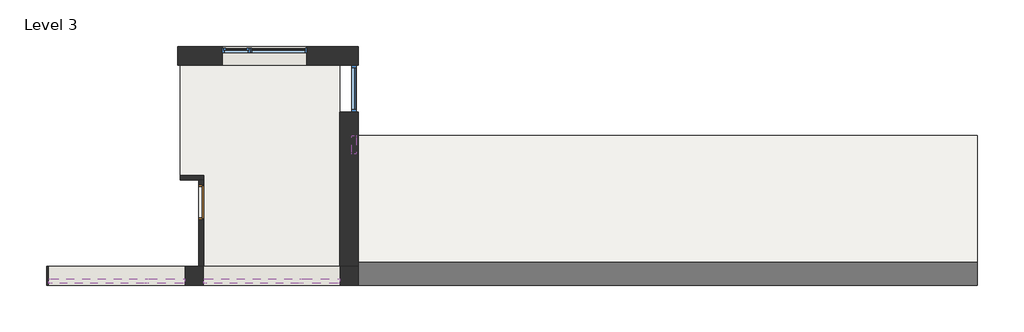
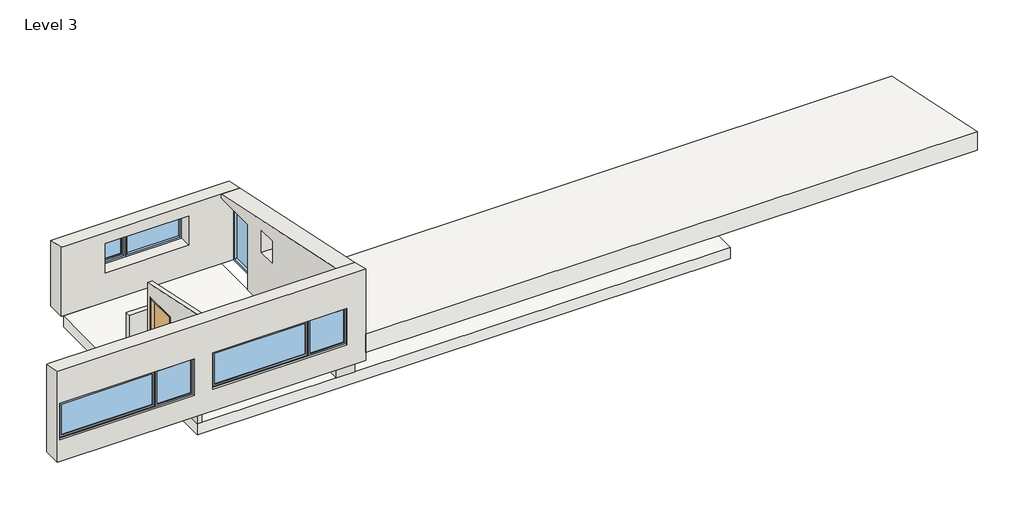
# One storey: 5 walls, 5 windows, 1 door, 1 roof, 1 slab.
"""IFC4 building model written with IfcOpenShell, lengths in millimetres."""

from ifc_helpers import new_model, si_unit, frame, origin, place, context, project, spatial, polyline, outline, extrude, faceted_brep, transform, mapped, element, save
from components import int_single_flush_900x2200_mm_58b118df, fixed_1200x1800_mm_f7b21099, fixed_480x600_mm_b97dc9c7, window_assembly_individual_2160x800_mm_7af03b1a, window_assembly_individual_3480x1000_mm_c786019a

model = new_model("IFC4")

# Units and contexts
model_context = context("Model", 3, world=origin())
ifc_project = project(units=[si_unit("LENGTHUNIT", "METRE", prefix="MILLI")], contexts=[model_context])

# Site, building, storey
site = spatial("IfcSite", under=ifc_project)
building = spatial("IfcBuilding", under=site)
storey = spatial("IfcBuildingStorey", under=building, Name="Level 3", Elevation=2600.0)

# Door
placement = place(None, origin())
int_single_flush_900x2200_mm_shape = int_single_flush_900x2200_mm_58b118df(model_context)
element("IfcDoor", 1, ObjectType="Int. Single-Flush : 900x2200 mm", at=placement, inside=storey, context=model_context, shape_type="MappedRepresentation", body=[
    mapped(int_single_flush_900x2200_mm_shape, transform((8340.0, 5970.0, 2600.0), x_axis=(0.0, -1.0, 0.0), y_axis=(1.0, 0.0, 0.0), z_axis=(0.0, 0.0, 1.0))),
])

# Roof
element("IfcRoof", 2, ObjectType="Generic - 500mm", at=placement, inside=storey, context=model_context, shape_type="SweptSolid", body=[
    extrude(outline(polyline([(3840.0, 3927.3874942), (7680.0, 3111.1702974), (7680.0, 2600.0), (3840.0, 3416.2171968), (3840.0, 3927.3874942)])), frame((12360.0, 0.0, 0.0), z_axis=(1.0, 0.0, 0.0), x_axis=(0.0, 1.0, 0.0)), (0.0, 0.0, 1.0), 15840.0),
])

# Slab
element("IfcSlab", 3, ObjectType="Generic - 300mm", at=placement, inside=storey, context=model_context, shape_type="SweptSolid", body=[
    extrude(outline(polyline([(11880.0, 7200.0), (22080.0, 7200.0), (22080.0, 4320.0), (8280.0, 4320.0), (8280.0, 6540.0), (7800.0, 6540.0), (7800.0, 9480.0), (11880.0, 9480.0), (11880.0, 7200.0)])), frame((0.0, 0.0, 2300.0), z_axis=(0.0, 0.0, 1.0), x_axis=(1.0, 0.0, 0.0)), (0.0, 0.0, 1.0), 300.0),
])

# Walls
element("IfcWall", 4, ObjectType="Generic - 120mm (Interior)", at=placement, inside=storey, context=model_context, shape_type="Brep", body=[
    faceted_brep([(7800.0, 6540.0, 2600.0), (8280.0, 6540.0, 2600.0), (8400.0, 6540.0, 2600.0), (8400.0, 6540.0, 4400.0), (7800.0, 6540.0, 4400.0), (7800.0, 6660.0, 2600.0), (7800.0, 6660.0, 4400.0), (8400.0, 6660.0, 4400.0), (8400.0, 6660.0, 2600.0)], [[[0, 1, 2, 3, 4]], [[5, 6, 7, 8]], [[2, 1, 0, 5, 8]], [[4, 3, 7, 6]], [[0, 4, 6, 5]], [[3, 2, 8, 7]]]),
])
element("IfcWall", 5, ObjectType="Generic - 120mm (Interior)", at=placement, inside=storey, context=model_context, shape_type="Brep", body=[
    faceted_brep([(8280.0, 6540.0, 5126.9434409), (8280.0, 6540.0, 2600.0), (8280.0, 6420.0, 2600.0), (8280.0, 6420.0, 4800.0), (8280.0, 5520.0, 4800.0), (8280.0, 5520.0, 2600.0), (8280.0, 4320.0, 2600.0), (8280.0, 4320.0, 5598.8190078), (8400.0, 6540.0, 2600.0), (8400.0, 6540.0, 4400.0), (8400.0, 6540.0, 5126.9434409), (8400.0, 4320.0, 5598.8190078), (8400.0, 4320.0, 4800.0), (8400.0, 4320.0, 3800.0), (8400.0, 4320.0, 2600.0), (8400.0, 5520.0, 2600.0), (8400.0, 5520.0, 4800.0), (8400.0, 6420.0, 4800.0), (8400.0, 6420.0, 2600.0)], [[[0, 1, 2, 3, 4, 5, 6, 7]], [[8, 9, 10, 11, 12, 13, 14, 15, 16, 17, 18]], [[1, 8, 18, 2]], [[14, 6, 5, 15]], [[1, 0, 10, 9, 8]], [[7, 6, 14, 13, 12, 11]], [[0, 7, 11, 10]], [[4, 16, 15, 5]], [[16, 4, 3, 17]], [[17, 3, 2, 18]]]),
])
element("IfcWall", 6, ObjectType="Generic - 480mm (Exterior)", at=placement, inside=storey, context=model_context, shape_type="Brep", body=[
    faceted_brep([(7740.0, 9480.0, 2600.0), (12360.0, 9480.0, 2600.0), (12360.0, 9480.0, 4400.0), (12360.0, 9480.0, 4502.0271496), (11880.0, 9480.0, 4502.0271496), (7800.0, 9480.0, 4502.0271496), (7740.0, 9480.0, 4502.0271496), (11040.0, 9480.0, 3400.0), (8880.0, 9480.0, 3400.0), (8880.0, 9480.0, 4200.0), (11040.0, 9480.0, 4200.0), (7740.0, 9960.0, 2600.0), (7740.0, 9960.0, 4400.0), (12360.0, 9960.0, 4400.0), (12360.0, 9960.0, 2600.0), (11040.0, 9960.0, 3400.0), (11040.0, 9960.0, 4200.0), (8880.0, 9960.0, 4200.0), (8880.0, 9960.0, 3400.0)], [[[0, 1, 2, 3, 4, 5, 6], [7, 8, 9, 10]], [[11, 12, 13, 14], [15, 16, 17, 18]], [[1, 0, 11, 14]], [[0, 6, 12, 11]], [[3, 2, 1, 14, 13]], [[6, 5, 4, 3, 13, 12]], [[16, 15, 7, 10]], [[17, 16, 10, 9]], [[18, 17, 9, 8]], [[15, 18, 8, 7]]]),
])
element("IfcWall", 7, ObjectType="Generic - 480mm (Exterior)", at=placement, inside=storey, context=model_context, shape_type="Brep", body=[
    faceted_brep([(11880.0, 4320.0, 5598.8190078), (11880.0, 9480.0, 4502.0271496), (11880.0, 9480.0, 4400.0), (11880.0, 8280.0, 4400.0), (11880.0, 8280.0, 2600.0), (11880.0, 7680.0, 2600.0), (11880.0, 4320.0, 2600.0), (11880.0, 4320.0, 3800.0), (11880.0, 4320.0, 4800.0), (11880.0, 7680.0, 4000.0), (11880.0, 7680.0, 4600.0), (11880.0, 7200.0, 4600.0), (11880.0, 7200.0, 4000.0), (12360.0, 9480.0, 4502.0271496), (12360.0, 4320.0, 5598.8190078), (12360.0, 4320.0, 3200.0), (12360.0, 4320.0, 2600.0), (12360.0, 7680.0, 2600.0), (12360.0, 8280.0, 2600.0), (12360.0, 8280.0, 4400.0), (12360.0, 9480.0, 4400.0), (12360.0, 7680.0, 4000.0), (12360.0, 7200.0, 4000.0), (12360.0, 7200.0, 4600.0), (12360.0, 7680.0, 4600.0)], [[[0, 1, 2, 3, 4, 5, 6, 7, 8], [9, 10, 11, 12]], [[13, 14, 15, 16, 17, 18, 19, 20], [21, 22, 23, 24]], [[16, 6, 5, 4, 18, 17]], [[1, 13, 20, 2]], [[1, 0, 14, 13]], [[0, 8, 7, 6, 16, 15, 14]], [[19, 3, 2, 20]], [[3, 19, 18, 4]], [[10, 9, 21, 24]], [[11, 10, 24, 23]], [[12, 11, 23, 22]], [[9, 12, 22, 21]]]),
])
element("IfcWall", 8, ObjectType="Generic - 480mm (Exterior)", at=placement, inside=storey, context=model_context, shape_type="Brep", body=[
    faceted_brep([(12360.0, 4320.0, 3200.0), (4440.0, 4320.0, 3200.0), (4380.0, 4320.0, 3200.0), (4380.0, 4320.0, 5598.8190078), (4440.0, 4320.0, 5598.8190078), (8280.0, 4320.0, 5598.8190078), (8400.0, 4320.0, 5598.8190078), (11880.0, 4320.0, 5598.8190078), (12360.0, 4320.0, 5598.8190078), (7920.0, 4320.0, 3800.0), (7920.0, 4320.0, 4800.0), (4440.0, 4320.0, 4800.0), (4440.0, 4320.0, 3800.0), (11880.0, 4320.0, 3800.0), (11880.0, 4320.0, 4800.0), (8400.0, 4320.0, 4800.0), (8400.0, 4320.0, 3800.0), (12360.0, 3840.0, 3200.0), (12360.0, 3840.0, 5700.8461574), (4380.0, 3840.0, 5700.8461574), (4380.0, 3840.0, 3362.7828084), (4380.0, 3840.0, 3200.0), (7920.0, 3840.0, 3800.0), (4440.0, 3840.0, 3800.0), (4440.0, 3840.0, 4800.0), (7920.0, 3840.0, 4800.0), (11880.0, 3840.0, 3800.0), (8400.0, 3840.0, 3800.0), (8400.0, 3840.0, 4800.0), (11880.0, 3840.0, 4800.0), (4380.0, 4200.0, 3200.0)], [[[0, 1, 2, 3, 4, 5, 6, 7, 8], [9, 10, 11, 12], [13, 14, 15, 16]], [[17, 18, 19, 20, 21], [22, 23, 24, 25], [26, 27, 28, 29]], [[2, 1, 0, 17, 21, 30]], [[3, 2, 30, 21, 20, 19]], [[8, 7, 6, 5, 4, 3, 19, 18]], [[0, 8, 18, 17]], [[10, 9, 22, 25]], [[11, 10, 25, 24]], [[12, 11, 24, 23]], [[9, 12, 23, 22]], [[14, 13, 26, 29]], [[15, 14, 29, 28]], [[16, 15, 28, 27]], [[13, 16, 27, 26]]]),
])

# Windows
fixed_1200x1800_mm_shape = fixed_1200x1800_mm_f7b21099(model_context)
element("IfcWindow", 9, ObjectType="Fixed : 1200x1800 mm", at=placement, inside=storey, context=model_context, shape_type="MappedRepresentation", body=[
    mapped(fixed_1200x1800_mm_shape, transform((12120.0, 8880.0, 1800.0), x_axis=(0.0, -1.0, 0.0), y_axis=(1.0, 0.0, 0.0), z_axis=(0.0, 0.0, 1.0))),
])
fixed_480x600_mm_shape = fixed_480x600_mm_b97dc9c7(model_context)
element("IfcWindow", 10, ObjectType="Fixed : 480x600 mm", at=placement, inside=storey, context=model_context, shape_type="MappedRepresentation", body=[
    mapped(fixed_480x600_mm_shape, transform((12120.0, 7440.0, 3200.0), x_axis=(0.0, -1.0, 0.0), y_axis=(1.0, 0.0, 0.0), z_axis=(0.0, 0.0, 1.0))),
])
window_assembly_individual_2160x800_mm_shape = window_assembly_individual_2160x800_mm_7af03b1a(model_context)
element("IfcWindow", 11, ObjectType="Window Assembly Individual : 2160x800 mm", at=placement, inside=storey, context=model_context, shape_type="MappedRepresentation", body=[
    mapped(window_assembly_individual_2160x800_mm_shape, transform((9960.0, 9720.0, 2600.0), x_axis=(-1.0, 0.0, 0.0), y_axis=(0.0, -1.0, 0.0), z_axis=(0.0, 0.0, 1.0))),
])
window_assembly_individual_3480x1000_mm_shape = window_assembly_individual_3480x1000_mm_c786019a(model_context)
element("IfcWindow", 12, ObjectType="Window Assembly Individual : 3480x1000 mm", at=placement, inside=storey, context=model_context, shape_type="MappedRepresentation", body=[
    mapped(window_assembly_individual_3480x1000_mm_shape, transform((6180.0, 4080.0, 3000.0), x_axis=(-1.0, 0.0, 0.0), y_axis=(0.0, -1.0, 0.0), z_axis=(0.0, 0.0, 1.0))),
])
element("IfcWindow", 13, ObjectType="Window Assembly Individual : 3480x1000 mm", at=placement, inside=storey, context=model_context, shape_type="MappedRepresentation", body=[
    mapped(window_assembly_individual_3480x1000_mm_shape, transform((10140.0, 4080.0, 3000.0), x_axis=(-1.0, 0.0, 0.0), y_axis=(0.0, -1.0, 0.0), z_axis=(0.0, 0.0, 1.0))),
])

save(model, "model.ifc")
